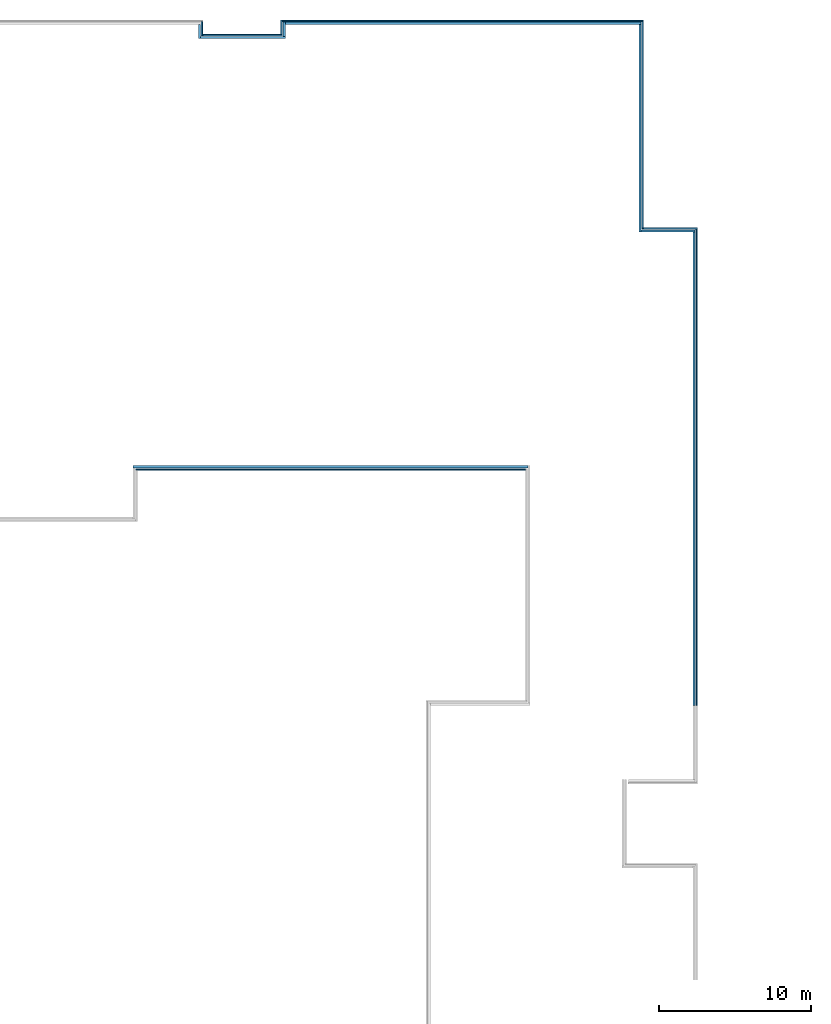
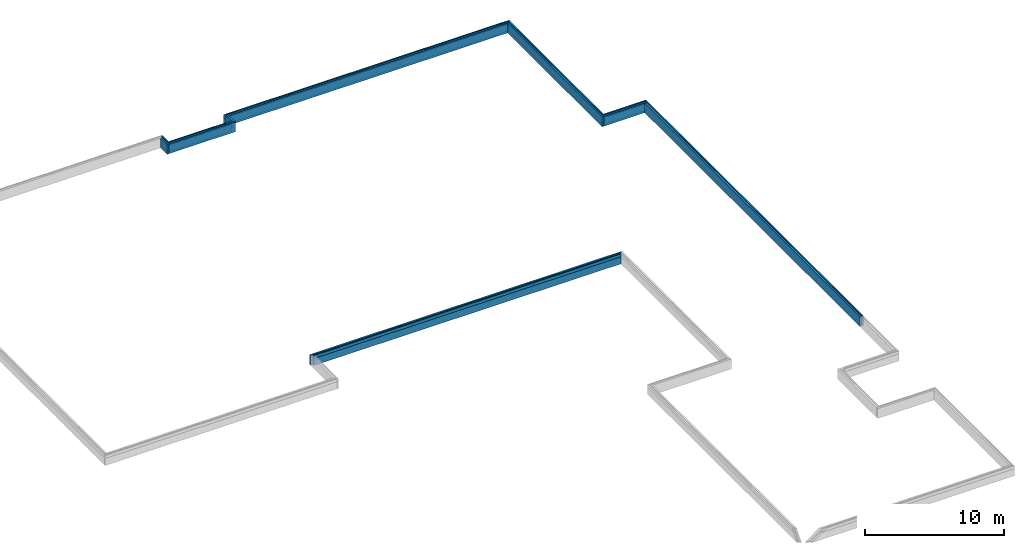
# One storey, part 3 of 3: 24 building element parts, 8 elements without a shape of their own.
"""IFC2X3 building model written with IfcOpenShell, lengths in millimetres."""

import ifcopenshell
import ifcopenshell.guid

model = None  # the IFC model being written
_history = None  # IfcOwnerHistory: only IFC2X3 demands one
_inside = {}  # id of a spatial element -> (the spatial element, [elements in it])
_under = {}  # id of a project, library or spatial element -> (it, [spatial elements below it])
_declared = {}  # id of a project -> (the project, [libraries it declares])
_typed = {}  # id of a type object -> (the type object, [elements of that type])
_made_of = {}  # id of a material, layer set ... -> (it, [elements and type objects made of it])


def new_model(schema):
    """Start an empty IFC model of exactly this schema.

    Asked for "IFC4X3", IfcOpenShell would pick the latest addendum, in which some entities
    have other attributes; the version numbers below select the first issue.
    IFC2X3 requires an IfcOwnerHistory on every rooted entity: one is made here for all.
    """
    global model, _history
    if schema == "IFC4X3":
        model = ifcopenshell.file(schema_version=(4, 3, 0, 0))
    else:
        model = ifcopenshell.file(schema=schema)
    _inside.clear()
    _under.clear()
    _declared.clear()
    _typed.clear()
    _made_of.clear()
    _history = None
    if model.schema == "IFC2X3":
        org = make("IfcOrganization", Name="unknown")
        user = make(
            "IfcPersonAndOrganization",
            ThePerson=make("IfcPerson", FamilyName="unknown"),
            TheOrganization=org,
        )
        app = make(
            "IfcApplication",
            ApplicationDeveloper=org,
            Version="unknown",
            ApplicationFullName="unknown",
            ApplicationIdentifier="unknown",
        )
        _history = make(
            "IfcOwnerHistory",
            OwningUser=user,
            OwningApplication=app,
            ChangeAction="ADDED",
            CreationDate=0,
        )
    return model


def make(cls, **values):
    """One entity of the class cls with the attributes given. An attribute that is None is left unset."""
    return model.create_entity(
        cls, **{name: value for name, value in values.items() if value is not None}
    )


def entity(cls, *values):
    """Any entity or typed value of the class cls, its attributes in the order of the schema. None: left unset."""
    e = model.create_entity(cls)
    for i, value in enumerate(values):
        if value is not None:
            e[i] = value
    return e


def rooted(cls, **values):
    """An entity with a GlobalId (a new one), such as an element, a storey or a relation."""
    return make(cls, GlobalId=ifcopenshell.guid.new(), OwnerHistory=_history, **values)


def si_unit(unit_type, name, prefix=None):
    """IfcSIUnit, for example si_unit("LENGTHUNIT", "METRE", prefix="MILLI")."""
    return make("IfcSIUnit", UnitType=unit_type, Prefix=prefix, Name=name)


def converted_unit(unit_type, name, factor, base, dimensions=None, offset=None):
    """IfcConversionBasedUnit, such as the inch: factor (a typed value) times the base unit."""
    return make(
        "IfcConversionBasedUnit"
        if offset is None
        else "IfcConversionBasedUnitWithOffset",
        ConversionOffset=offset,
        Dimensions=None
        if dimensions is None
        else entity("IfcDimensionalExponents", *dimensions),
        UnitType=unit_type,
        Name=name,
        ConversionFactor=make(
            "IfcMeasureWithUnit", ValueComponent=factor, UnitComponent=base
        ),
    )


def derived_unit(unit_type, elements):
    """IfcDerivedUnit: a product of units, each with its exponent."""
    return make(
        "IfcDerivedUnit",
        Elements=[
            make("IfcDerivedUnitElement", Unit=unit, Exponent=power)
            for unit, power in elements
        ],
        UnitType=unit_type,
    )


def money_unit(currency):
    """IfcMonetaryUnit."""
    return make("IfcMonetaryUnit", Currency=currency)


def assignment(units):
    """IfcUnitAssignment: the units of a project."""
    return None if units is None else make("IfcUnitAssignment", Units=units)


def point(xyz):
    """IfcCartesianPoint."""
    return None if xyz is None else make("IfcCartesianPoint", Coordinates=xyz)


def direction(xyz):
    """IfcDirection."""
    return None if xyz is None else make("IfcDirection", DirectionRatios=xyz)


def frame(location, z_axis=None, x_axis=None):
    """IfcAxis2Placement3D, a coordinate frame: its origin and axes. An axis left out is left unset."""
    return make(
        "IfcAxis2Placement3D",
        Location=point(location),
        Axis=direction(z_axis),
        RefDirection=direction(x_axis),
    )


def origin_with_axes():
    """The frame at (0, 0, 0) with the z axis (0, 0, 1) and the x axis (1, 0, 0) written out."""
    return frame((0.0, 0.0, 0.0), z_axis=(0.0, 0.0, 1.0), x_axis=(1.0, 0.0, 0.0))


def place(relative_to, where):
    """IfcLocalPlacement: puts the frame where relative to a parent placement (None: the world)."""
    return make(
        "IfcLocalPlacement", PlacementRelTo=relative_to, RelativePlacement=where
    )


def context(
    kind, dimensions, precision=None, world=None, true_north=None, identifier=None
):
    """IfcGeometricRepresentationContext, for example the 3D "Model" context."""
    return make(
        "IfcGeometricRepresentationContext",
        ContextIdentifier=identifier,
        ContextType=kind,
        CoordinateSpaceDimension=dimensions,
        Precision=precision,
        WorldCoordinateSystem=world,
        TrueNorth=true_north,
    )


def subcontext(parent, identifier, kind, view, scale=None):
    """IfcGeometricRepresentationSubContext, for example "Body" below "Model"."""
    return make(
        "IfcGeometricRepresentationSubContext",
        ContextIdentifier=identifier,
        ContextType=kind,
        ParentContext=parent,
        TargetScale=scale,
        TargetView=view,
    )


def project(units=None, contexts=None):
    """IfcProject with its units and contexts."""
    return rooted(
        "IfcProject",
        Name="project",
        RepresentationContexts=contexts,
        UnitsInContext=assignment(units),
    )


def spatial(cls, under=None, at=None, **own):
    """A site, building, storey or space (cls), placed at a placement, below another one or the project."""
    s = rooted(cls, ObjectPlacement=at, **own)
    if under is not None:
        _under.setdefault(under.id(), (under, []))[1].append(s)
    return s


def faces_of(points, faces, orient=None, outer=None):
    """IfcFace entities. A face is a list of loops; a loop is a list of indices into points, from 0.

    orient and outer hold one flag for each loop. By default every Orientation is true, the
    first loop of a face is its IfcFaceOuterBound and the others are IfcFaceBound.
    """
    made = []
    for i, loops in enumerate(faces):
        bounds = []
        for j, loop in enumerate(loops):
            is_outer = j == 0 if outer is None else outer[i][j]
            bounds.append(
                make(
                    "IfcFaceOuterBound" if is_outer else "IfcFaceBound",
                    Bound=make("IfcPolyLoop", Polygon=[points[k] for k in loop]),
                    Orientation=True if orient is None else orient[i][j],
                )
            )
        made.append(make("IfcFace", Bounds=bounds))
    return made


def faceted_brep(points, faces, orient=None, outer=None, voids=None):
    """IfcFacetedBrep: a solid bounded by flat faces; with voids (closed shells), ...WithVoids."""
    shared = [point(p) for p in points]
    hull = make("IfcClosedShell", CfsFaces=faces_of(shared, faces, orient, outer))
    if voids is None:
        return make("IfcFacetedBrep", Outer=hull)
    return make(
        "IfcFacetedBrepWithVoids",
        Outer=hull,
        Voids=[
            make(cls, CfsFaces=faces_of(shared, fs, o, b)) for cls, fs, o, b in voids
        ],
    )


def shape(context_of_items, identifier, shape_type, items):
    """IfcShapeRepresentation: the items that make up one representation, for example the "Body"."""
    return make(
        "IfcShapeRepresentation",
        ContextOfItems=context_of_items,
        RepresentationIdentifier=identifier,
        RepresentationType=shape_type,
        Items=items,
    )


def material(Name=None, Category=None):
    """IfcMaterial."""
    return make("IfcMaterial", Name=Name, Category=Category)


def made_of(thing, what):
    """Note that an element or type object is made of a material, layer set ...; save() writes the relation."""
    if what is not None:
        _made_of.setdefault(what.id(), (what, []))[1].append(thing)
    return thing


def type_object(cls, material=None, **own):
    """A type object (cls), such as IfcWallType, which elements share."""
    return made_of(rooted(cls, **own), material)


def element(
    cls,
    number,
    at=None,
    inside=None,
    cuts=None,
    type_object=None,
    material=None,
    context=None,
    identifier="Body",
    shape_type=None,
    held_by="IfcProductDefinitionShape",
    body=None,
    shapes=None,
    **own,
):
    """One element of the class cls, such as IfcWall. Its Tag is "e" and its number.

    at: its placement. inside: the storey or other place that contains it. cuts: it is an
    opening in that element (IfcRelVoidsElement). A single representation is given by context,
    identifier, shape_type and body (its items); several are given by shapes. held_by: the class
    of the entity that holds the representations. save() writes the other relations.
    """
    e = rooted(cls, Tag="e%d" % number, ObjectPlacement=at, **own)
    if body is not None:
        shapes = [shape(context, identifier, shape_type, body)]
    if shapes is not None:
        e.Representation = make(held_by, Representations=shapes)
    if inside is not None:
        _inside.setdefault(inside.id(), (inside, []))[1].append(e)
    if cuts is not None:
        rooted(
            "IfcRelVoidsElement", RelatingBuildingElement=cuts, RelatedOpeningElement=e
        )
    if type_object is not None:
        _typed.setdefault(type_object.id(), (type_object, []))[1].append(e)
    return made_of(e, material)


def aggregate(whole, parts):
    """IfcRelAggregates: a whole, such as a stair, and the parts it consists of."""
    return rooted("IfcRelAggregates", RelatingObject=whole, RelatedObjects=parts)


def save(model, path):
    """Write the relations noted so far, then the file.

    IfcRelAggregates (storeys below a building ...), IfcRelContainedInSpatialStructure (elements
    in a storey), IfcRelDefinesByType, IfcRelAssociatesMaterial and IfcRelDeclares: one each for
    every whole, place, type object, material and project.
    """
    for whole, parts in _under.values():
        aggregate(whole, parts)
    for where, things in _inside.values():
        rooted(
            "IfcRelContainedInSpatialStructure",
            RelatedElements=things,
            RelatingStructure=where,
        )
    for kind, things in _typed.values():
        rooted("IfcRelDefinesByType", RelatedObjects=things, RelatingType=kind)
    for what, things in _made_of.values():
        rooted("IfcRelAssociatesMaterial", RelatedObjects=things, RelatingMaterial=what)
    for by, libraries in _declared.values():
        rooted("IfcRelDeclares", RelatingContext=by, RelatedDefinitions=libraries)
    model.write(path)


model = new_model("IFC2X3")

# Units and contexts
model_context = context("Model", 3, precision=0.01, world=origin_with_axes(), true_north=direction((0.0, 1.0)))
plan_context = context("Plan", 3, precision=0.01, world=origin_with_axes(), true_north=direction((0.0, 1.0)))
body_context = subcontext(model_context, "Body", "Model", "MODEL_VIEW")
ifc_project = project(units=[si_unit("LENGTHUNIT", "METRE", prefix="MILLI"), si_unit("AREAUNIT", "SQUARE_METRE"), si_unit("VOLUMEUNIT", "CUBIC_METRE"), converted_unit("PLANEANGLEUNIT", "DEGREE", entity("IfcPlaneAngleMeasure", 0.0174532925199), si_unit("PLANEANGLEUNIT", "RADIAN"), dimensions=[0, 0, 0, 0, 0, 0, 0]), money_unit("EUR"), converted_unit("TIMEUNIT", "Year", entity("IfcTimeMeasure", 31556926.0), si_unit("TIMEUNIT", "SECOND"), dimensions=[0, 0, 1, 0, 0, 0, 0]), si_unit("MASSUNIT", "GRAM", prefix="KILO"), si_unit("THERMODYNAMICTEMPERATUREUNIT", "DEGREE_CELSIUS"), si_unit("LUMINOUSINTENSITYUNIT", "LUMEN"), si_unit("ENERGYUNIT", "JOULE", prefix="MEGA"), derived_unit("THERMALCONDUCTANCEUNIT", [(si_unit("POWERUNIT", "WATT"), 1), (si_unit("LENGTHUNIT", "METRE"), -1), (si_unit("THERMODYNAMICTEMPERATUREUNIT", "KELVIN"), -1)]), derived_unit("SPECIFICHEATCAPACITYUNIT", [(si_unit("ENERGYUNIT", "JOULE"), 1), (si_unit("MASSUNIT", "GRAM", prefix="KILO"), -1), (si_unit("THERMODYNAMICTEMPERATUREUNIT", "KELVIN"), -1)]), derived_unit("MASSDENSITYUNIT", [(si_unit("MASSUNIT", "GRAM", prefix="KILO"), 1), (si_unit("VOLUMEUNIT", "CUBIC_METRE"), -1)])], contexts=[model_context, plan_context])

# Site, building, storey
site_placement = place(None, origin_with_axes())
site = spatial("IfcSite", under=ifc_project, at=site_placement, Name="Site", CompositionType="ELEMENT")
building_placement = place(site_placement, origin_with_axes())
building = spatial("IfcBuilding", under=site, at=building_placement, Name="Naam gebouw", CompositionType="ELEMENT")
storey_placement = place(building_placement, frame((0.0, 0.0, -1540.0), z_axis=(0.0, 0.0, 1.0), x_axis=(1.0, 0.0, 0.0)))
storey = spatial("IfcBuildingStorey", under=building, at=storey_placement, Name="Fundering", CompositionType="ELEMENT", Elevation=-1540.0)

# Wall, building element parts
wall_type = type_object("IfcWallType", Name="21 buitenwand onder maaiveld & isolatie 286 x 870", PredefinedType="ELEMENTEDWALL")
wall_1_placement = place(storey_placement, frame((47920.0380848, 6369.99642804, 1470.0), z_axis=(0.0, 0.0, 1.0), x_axis=(-1.0, 0.0, 0.0)))
wall_1 = element("IfcWall", 1, at=wall_1_placement, inside=storey, type_object=wall_type, Name="Buitenwand ondermaaiveld")
ifc_material_1 = material(Name="Steen - Betonblok vuilwerk")
building_element_part_1_placement = place(wall_1_placement, origin_with_axes())
building_element_part_1 = element("IfcBuildingElementPart", 2, at=building_element_part_1_placement, material=ifc_material_1, Name="Steen - Betonblok vuilwerk", context=body_context, shape_type="Brep", body=[
    faceted_brep([(25864.0380832, 186.000001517, -870.000006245), (25864.0380832, 186.000001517, -250.000002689), (286.0, 186.000001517, -250.000002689), (286.0, 186.000001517, -870.000006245), (25864.0380832, 286.0, -250.000002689), (25864.0380832, 286.0, -870.000006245), (286.0, 286.0, -250.000002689), (286.0, 286.0, -870.000006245)], [[[0, 1, 2, 3]], [[4, 1, 0, 5]], [[1, 4, 6, 2]], [[3, 2, 6, 7]], [[5, 0, 3, 7]], [[4, 5, 7, 6]]]),
])
ifc_material_2 = material(Name="Steen - Baksteen AFW")
building_element_part_2_placement = place(wall_1_placement, origin_with_axes())
building_element_part_2 = element("IfcBuildingElementPart", 3, at=building_element_part_2_placement, material=ifc_material_2, Name="Steen - Baksteen AFW", context=body_context, shape_type="Brep", body=[
    faceted_brep([(25864.0380832, 186.0, -250.000002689), (25864.0380832, 186.0, 0.0), (286.0, 186.0, 0.0), (286.0, 186.0, -250.0), (25864.0380832, 286.0, 0.0), (25864.0380832, 286.0, -250.000002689), (286.0, 286.0, 0.0), (286.0, 286.0, -250.0)], [[[0, 1, 2, 3]], [[4, 1, 0, 5]], [[1, 4, 6, 2]], [[3, 2, 6, 7]], [[5, 0, 3, 7]], [[4, 5, 7, 6]]]),
])
ifc_material_3 = material(Name="Isolatie - Kunststof hard")
building_element_part_3_placement = place(wall_1_placement, origin_with_axes())
building_element_part_3 = element("IfcBuildingElementPart", 4, at=building_element_part_3_placement, material=ifc_material_3, Name="Isolatie - Kunststof hard", context=body_context, shape_type="Brep", body=[
    faceted_brep([(140.0, 140.0, 0.0), (140.0, 0.0, 0.0), (26050.0380832, 0.0, 0.0), (26050.0380832, 140.0, 0.0), (140.0, 0.0, -250.000002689), (140.0, 140.0, -250.000002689), (140.0, 0.0, -870.000006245), (26050.0380832, 0.0, -870.000006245), (26050.0380832, 140.0, -870.000006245), (140.0, 140.0, -870.000006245)], [[[0, 1, 2, 3]], [[4, 1, 0, 5]], [[1, 4, 6, 7, 2]], [[8, 3, 2, 7]], [[5, 0, 3, 8, 9]], [[4, 5, 9, 6]], [[6, 9, 8, 7]]]),
])
aggregate(wall_1, [building_element_part_1, building_element_part_2, building_element_part_3])

wall_2_placement = place(storey_placement, frame((26165.9827545, 35329.994832, 1470.0), z_axis=(0.0, 0.0, 1.0), x_axis=(0.0, -1.0, 0.0)))
wall_2 = element("IfcWall", 5, at=wall_2_placement, inside=storey, type_object=wall_type, Name="Buitenwand ondermaaiveld")
building_element_part_4_placement = place(wall_2_placement, origin_with_axes())
building_element_part_4 = element("IfcBuildingElementPart", 6, at=building_element_part_4_placement, material=ifc_material_1, Name="Steen - Betonblok vuilwerk", context=body_context, shape_type="Brep", body=[
    faceted_brep([(754.000360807, 186.000001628, -250.000002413), (754.000360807, 286.0, -250.000002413), (-185.998246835, 286.0, -250.000002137), (-185.998246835, 186.000001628, -250.000002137), (754.000360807, 286.0, -870.000005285), (754.000360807, 186.000001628, -870.000005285), (-185.998246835, 286.0, -870.000004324), (-185.998246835, 186.000001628, -870.000004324)], [[[0, 1, 2, 3]], [[4, 1, 0, 5]], [[1, 4, 6, 2]], [[3, 2, 6, 7]], [[5, 0, 3, 7]], [[4, 5, 7, 6]]]),
])
building_element_part_5_placement = place(wall_2_placement, origin_with_axes())
building_element_part_5 = element("IfcBuildingElementPart", 7, at=building_element_part_5_placement, material=ifc_material_2, Name="Steen - Baksteen AFW", context=body_context, shape_type="Brep", body=[
    faceted_brep([(754.000360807, 186.0, 0.0), (754.000360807, 286.0, 0.0), (-185.998245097, 286.0, 0.0), (-185.998245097, 186.0, 0.0), (754.000360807, 286.0, -250.000002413), (754.000360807, 186.0, -250.000002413), (-185.998245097, 286.0, -250.0), (-185.998245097, 186.0, -250.0)], [[[0, 1, 2, 3]], [[4, 1, 0, 5]], [[1, 4, 6, 2]], [[3, 2, 6, 7]], [[5, 0, 3, 7]], [[4, 5, 7, 6]]]),
])
building_element_part_6_placement = place(wall_2_placement, origin_with_axes())
building_element_part_6 = element("IfcBuildingElementPart", 8, at=building_element_part_6_placement, material=ifc_material_3, Name="Isolatie - Kunststof hard", context=body_context, shape_type="Brep", body=[
    faceted_brep([(0.00175490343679, 140.0, -250.000002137), (0.00175490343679, 140.0, 0.0), (940.000360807, 140.0, 0.0), (940.000360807, 140.0, -870.000005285), (0.00175490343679, 140.0, -870.000004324), (0.00175490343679, 0.0, 0.0), (0.00175490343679, 0.0, -250.000002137), (940.000360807, 0.0, 0.0), (940.000360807, 0.0, -870.000005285), (0.00175490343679, 0.0, -870.000004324)], [[[0, 1, 2, 3, 4]], [[5, 1, 0, 6]], [[1, 5, 7, 2]], [[8, 3, 2, 7]], [[9, 4, 3, 8]], [[6, 0, 4, 9]], [[5, 6, 9, 8, 7]]]),
])
aggregate(wall_2, [building_element_part_4, building_element_part_5, building_element_part_6])

wall_3_placement = place(storey_placement, frame((26165.9827545, 34389.9944696, 1470.0), z_axis=(0.0, 0.0, 1.0), x_axis=(1.0, 0.0, 0.0)))
wall_3 = element("IfcWall", 9, at=wall_3_placement, inside=storey, type_object=wall_type, Name="Buitenwand ondermaaiveld")
building_element_part_7_placement = place(wall_3_placement, origin_with_axes())
building_element_part_7 = element("IfcBuildingElementPart", 10, at=building_element_part_7_placement, material=ifc_material_1, Name="Steen - Betonblok vuilwerk", context=body_context, shape_type="Brep", body=[
    faceted_brep([(5518.03417659, 186.000001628, -250.000002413), (5518.03417659, 286.0, -250.000002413), (286.0, 286.0, -250.000002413), (286.0, 186.000001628, -250.000002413), (5518.03417659, 286.0, -870.000005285), (5518.03417659, 186.000001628, -870.000005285), (286.0, 286.0, -870.000005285), (286.0, 186.000001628, -870.000005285)], [[[0, 1, 2, 3]], [[4, 1, 0, 5]], [[1, 4, 6, 2]], [[3, 2, 6, 7]], [[5, 0, 3, 7]], [[4, 5, 7, 6]]]),
])
building_element_part_8_placement = place(wall_3_placement, origin_with_axes())
building_element_part_8 = element("IfcBuildingElementPart", 11, at=building_element_part_8_placement, material=ifc_material_2, Name="Steen - Baksteen AFW", context=body_context, shape_type="Brep", body=[
    faceted_brep([(5518.03417659, 186.0, 0.0), (5518.03417659, 286.0, 0.0), (286.0, 286.0, 0.0), (286.0, 186.0, 0.0), (5518.03417659, 286.0, -250.000002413), (5518.03417659, 186.0, -250.000002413), (286.0, 286.0, -250.0), (286.0, 186.0, -250.0)], [[[0, 1, 2, 3]], [[4, 1, 0, 5]], [[1, 4, 6, 2]], [[3, 2, 6, 7]], [[5, 0, 3, 7]], [[4, 5, 7, 6]]]),
])
building_element_part_9_placement = place(wall_3_placement, origin_with_axes())
building_element_part_9 = element("IfcBuildingElementPart", 12, at=building_element_part_9_placement, material=ifc_material_3, Name="Isolatie - Kunststof hard", context=body_context, shape_type="Brep", body=[
    faceted_brep([(140.0, 140.0, -250.000002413), (140.0, 140.0, 0.0), (5704.03417659, 140.0, 0.0), (5704.03417659, 140.0, -870.000005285), (140.0, 140.0, -870.000005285), (140.0, 0.0, 0.0), (140.0, 0.0, -250.000002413), (5704.03417659, 0.0, 0.0), (5704.03417659, 0.0, -870.000005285), (140.0, 0.0, -870.000005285)], [[[0, 1, 2, 3, 4]], [[5, 1, 0, 6]], [[1, 5, 7, 2]], [[8, 3, 2, 7]], [[9, 4, 3, 8]], [[6, 0, 4, 9]], [[5, 6, 9, 8, 7]]]),
])
aggregate(wall_3, [building_element_part_7, building_element_part_8, building_element_part_9])

wall_4_placement = place(storey_placement, frame((31870.0169327, 34389.9944696, 1470.0), z_axis=(0.0, 0.0, 1.0), x_axis=(0.0, 1.0, 0.0)))
wall_4 = element("IfcWall", 13, at=wall_4_placement, inside=storey, type_object=wall_type, Name="Buitenwand ondermaaiveld")
building_element_part_10_placement = place(wall_4_placement, origin_with_axes())
building_element_part_10 = element("IfcBuildingElementPart", 14, at=building_element_part_10_placement, material=ifc_material_1, Name="Steen - Betonblok vuilwerk", context=body_context, shape_type="Brep", body=[
    faceted_brep([(286.0, 286.0, -250.000002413), (286.0, 186.000001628, -250.000002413), (1226.00036848, 186.000001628, -250.000002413), (1226.00036848, 286.0, -250.000002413), (286.0, 186.000001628, -870.000005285), (286.0, 286.0, -870.000005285), (1226.00036848, 186.000001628, -870.000005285), (1226.00036848, 286.0, -870.000005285)], [[[0, 1, 2, 3]], [[4, 1, 0, 5]], [[1, 4, 6, 2]], [[3, 2, 6, 7]], [[5, 0, 3, 7]], [[4, 5, 7, 6]]]),
])
building_element_part_11_placement = place(wall_4_placement, origin_with_axes())
building_element_part_11 = element("IfcBuildingElementPart", 15, at=building_element_part_11_placement, material=ifc_material_2, Name="Steen - Baksteen AFW", context=body_context, shape_type="Brep", body=[
    faceted_brep([(286.0, 286.0, 0.0), (286.0, 186.0, 0.0), (1226.00036848, 186.0, 0.0), (1226.00036848, 286.0, 0.0), (286.0, 186.0, -250.0), (286.0, 286.0, -250.0), (1226.00036848, 186.0, -250.000002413), (1226.00036848, 286.0, -250.000002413)], [[[0, 1, 2, 3]], [[4, 1, 0, 5]], [[1, 4, 6, 2]], [[7, 3, 2, 6]], [[5, 0, 3, 7]], [[4, 5, 7, 6]]]),
])
building_element_part_12_placement = place(wall_4_placement, origin_with_axes())
building_element_part_12 = element("IfcBuildingElementPart", 16, at=building_element_part_12_placement, material=ifc_material_3, Name="Isolatie - Kunststof hard", context=body_context, shape_type="Brep", body=[
    faceted_brep([(1080.0003687, 0.0, -250.000002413), (1080.0003687, 0.0, 0.0), (140.0, 0.0, 0.0), (140.0, 0.0, -250.000002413), (140.0, 0.0, -870.000005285), (1080.0003687, 0.0, -870.000005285), (1080.0003687, 140.0, 0.0), (1080.0003687, 140.0, -250.000002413), (140.0, 140.0, 0.0), (140.0, 140.0, -250.000002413), (140.0, 140.0, -870.000005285), (1080.0003687, 140.0, -870.000005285)], [[[0, 1, 2, 3, 4, 5]], [[6, 1, 0, 7]], [[1, 6, 8, 2]], [[3, 2, 8, 9]], [[3, 9, 10, 4]], [[11, 5, 4, 10]], [[7, 0, 5, 11]], [[6, 7, 11, 10, 9, 8]]]),
])
aggregate(wall_4, [building_element_part_10, building_element_part_11, building_element_part_12])

wall_5_placement = place(storey_placement, frame((31870.0169327, 35329.994832, 1470.0), z_axis=(0.0, 0.0, 1.0), x_axis=(1.0, 0.0, 0.0)))
wall_5 = element("IfcWall", 17, at=wall_5_placement, inside=storey, type_object=wall_type, Name="Buitenwand ondermaaiveld")
building_element_part_13_placement = place(wall_5_placement, origin_with_axes())
building_element_part_13 = element("IfcBuildingElementPart", 18, at=building_element_part_13_placement, material=ifc_material_1, Name="Steen - Betonblok vuilwerk", context=body_context, shape_type="Brep", body=[
    faceted_brep([(-186.000001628, 286.0, -870.000005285), (-186.000001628, 286.0, -250.000002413), (23495.9982511, 286.0, -250.000002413), (23495.9982511, 286.0, -870.000005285), (-186.000001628, 186.000001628, -250.000002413), (-186.000001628, 186.000001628, -870.000005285), (23495.9982511, 186.000001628, -250.000002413), (23495.9982511, 186.000001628, -870.000005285)], [[[0, 1, 2, 3]], [[4, 1, 0, 5]], [[1, 4, 6, 2]], [[7, 3, 2, 6]], [[5, 0, 3, 7]], [[4, 5, 7, 6]]]),
])
building_element_part_14_placement = place(wall_5_placement, origin_with_axes())
building_element_part_14 = element("IfcBuildingElementPart", 19, at=building_element_part_14_placement, material=ifc_material_2, Name="Steen - Baksteen AFW", context=body_context, shape_type="Brep", body=[
    faceted_brep([(-186.0, 286.0, -250.0), (-186.0, 286.0, 0.0), (23495.9982511, 286.0, 0.0), (23495.9982511, 286.0, -250.000002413), (-186.0, 186.0, 0.0), (-186.0, 186.0, -250.0), (23495.9982511, 186.0, 0.0), (23495.9982511, 186.0, -250.000002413)], [[[0, 1, 2, 3]], [[4, 1, 0, 5]], [[1, 4, 6, 2]], [[7, 3, 2, 6]], [[5, 0, 3, 7]], [[4, 5, 7, 6]]]),
])
building_element_part_15_placement = place(wall_5_placement, origin_with_axes())
building_element_part_15 = element("IfcBuildingElementPart", 20, at=building_element_part_15_placement, material=ifc_material_3, Name="Isolatie - Kunststof hard", context=body_context, shape_type="Brep", body=[
    faceted_brep([(23349.9982514, 0.0, 0.0), (23349.9982514, 140.0, 0.0), (0.0, 140.0, 0.0), (0.0, 0.0, 0.0), (23349.9982514, 140.0, -250.000002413), (23349.9982514, 0.0, -250.000002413), (23349.9982514, 140.0, -870.000005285), (0.0, 140.0, -870.000005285), (0.0, 140.0, -250.000002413), (0.0, 0.0, -250.000002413), (0.0, 0.0, -870.000005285), (23349.9982514, 0.0, -870.000005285)], [[[0, 1, 2, 3]], [[4, 1, 0, 5]], [[1, 4, 6, 7, 8, 2]], [[3, 2, 8, 9]], [[5, 0, 3, 9, 10, 11]], [[4, 5, 11, 6]], [[6, 11, 10, 7]], [[9, 8, 7, 10]]]),
])
aggregate(wall_5, [building_element_part_13, building_element_part_14, building_element_part_15])

wall_6_placement = place(storey_placement, frame((55080.0151778, 35329.994832, 1470.0), z_axis=(0.0, 0.0, 1.0), x_axis=(0.0, -1.0, 0.0)))
wall_6 = element("IfcWall", 21, at=wall_6_placement, inside=storey, type_object=wall_type, Name="Buitenwand ondermaaiveld")
building_element_part_16_placement = place(wall_6_placement, origin_with_axes())
building_element_part_16 = element("IfcBuildingElementPart", 22, at=building_element_part_16_placement, material=ifc_material_1, Name="Steen - Betonblok vuilwerk", context=body_context, shape_type="Brep", body=[
    faceted_brep([(13449.9899569, 186.000001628, -250.000002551), (13449.9899569, 286.0, -250.000002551), (-186.000001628, 286.0, -250.000002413), (-186.000001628, 186.000001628, -250.000002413), (13449.9899569, 286.0, -870.000005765), (13449.9899569, 186.000001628, -870.000005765), (-186.000001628, 286.0, -870.000005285), (-186.000001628, 186.000001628, -870.000005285)], [[[0, 1, 2, 3]], [[4, 1, 0, 5]], [[1, 4, 6, 2]], [[3, 2, 6, 7]], [[5, 0, 3, 7]], [[4, 5, 7, 6]]]),
])
building_element_part_17_placement = place(wall_6_placement, origin_with_axes())
building_element_part_17 = element("IfcBuildingElementPart", 23, at=building_element_part_17_placement, material=ifc_material_2, Name="Steen - Baksteen AFW", context=body_context, shape_type="Brep", body=[
    faceted_brep([(13449.9899569, 186.0, 0.0), (13449.9899569, 286.0, 0.0), (-186.0, 286.0, 0.0), (-186.0, 186.0, 0.0), (13449.9899569, 286.0, -250.000002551), (13449.9899569, 186.0, -250.000002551), (-186.0, 286.0, -250.0), (-186.0, 186.0, -250.0)], [[[0, 1, 2, 3]], [[4, 1, 0, 5]], [[1, 4, 6, 2]], [[3, 2, 6, 7]], [[5, 0, 3, 7]], [[4, 5, 7, 6]]]),
])
building_element_part_18_placement = place(wall_6_placement, origin_with_axes())
building_element_part_18 = element("IfcBuildingElementPart", 24, at=building_element_part_18_placement, material=ifc_material_3, Name="Isolatie - Kunststof hard", context=body_context, shape_type="Brep", body=[
    faceted_brep([(0.0, 140.0, -250.000002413), (0.0, 140.0, 0.0), (13635.9899569, 140.0, 0.0), (13635.9899569, 140.0, -870.000005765), (0.0, 140.0, -870.000005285), (0.0, 0.0, 0.0), (0.0, 0.0, -250.000002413), (13635.9899569, 0.0, 0.0), (13635.9899569, 0.0, -870.000005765), (0.0, 0.0, -870.000005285)], [[[0, 1, 2, 3, 4]], [[5, 1, 0, 6]], [[1, 5, 7, 2]], [[8, 3, 2, 7]], [[9, 4, 3, 8]], [[6, 0, 4, 9]], [[5, 6, 9, 8, 7]]]),
])
aggregate(wall_6, [building_element_part_16, building_element_part_17, building_element_part_18])

wall_7_placement = place(storey_placement, frame((55080.0151778, 21480.0048735, 1470.0), z_axis=(0.0, 0.0, 1.0), x_axis=(1.0, 0.0, 0.0)))
wall_7 = element("IfcWall", 25, at=wall_7_placement, inside=storey, type_object=wall_type, Name="Buitenwand ondermaaiveld")
building_element_part_19_placement = place(wall_7_placement, origin_with_axes())
building_element_part_19 = element("IfcBuildingElementPart", 26, at=building_element_part_19_placement, material=ifc_material_1, Name="Steen - Betonblok vuilwerk", context=body_context, shape_type="Brep", body=[
    faceted_brep([(286.0, 500.0, -870.000005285), (286.0, 500.0, -250.000002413), (3836.00147711, 500.0, -250.000002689), (3836.00147711, 500.0, -870.000006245), (286.0, 400.000001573, -250.000002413), (286.0, 400.000001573, -870.000005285), (3836.00147711, 400.000001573, -250.000002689), (3836.00147711, 400.000001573, -870.000006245)], [[[0, 1, 2, 3]], [[4, 1, 0, 5]], [[1, 4, 6, 2]], [[7, 3, 2, 6]], [[5, 0, 3, 7]], [[4, 5, 7, 6]]]),
])
building_element_part_20_placement = place(wall_7_placement, origin_with_axes())
building_element_part_20 = element("IfcBuildingElementPart", 27, at=building_element_part_20_placement, material=ifc_material_2, Name="Steen - Baksteen AFW", context=body_context, shape_type="Brep", body=[
    faceted_brep([(286.0, 500.0, -250.0), (286.0, 500.0, 0.0), (3836.00147711, 500.0, 0.0), (3836.00147711, 500.0, -250.000002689), (286.0, 400.0, 0.0), (286.0, 400.0, -250.0), (3836.00147711, 400.0, 0.0), (3836.00147711, 400.0, -250.000002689)], [[[0, 1, 2, 3]], [[4, 1, 0, 5]], [[1, 4, 6, 2]], [[7, 3, 2, 6]], [[5, 0, 3, 7]], [[4, 5, 7, 6]]]),
])
building_element_part_21_placement = place(wall_7_placement, origin_with_axes())
building_element_part_21 = element("IfcBuildingElementPart", 28, at=building_element_part_21_placement, material=ifc_material_3, Name="Isolatie - Kunststof hard", context=body_context, shape_type="Brep", body=[
    faceted_brep([(3690.00148473, 214.0, 0.0), (3690.00148473, 354.0, 0.0), (140.0, 354.0, 0.0), (140.0, 214.0, 0.0), (3690.00148473, 354.0, -250.000002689), (3690.00148473, 214.0, -250.000002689), (3690.00148473, 354.0, -870.000006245), (140.0, 354.0, -870.000005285), (140.0, 354.0, -250.000002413), (140.0, 214.0, -250.000002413), (140.0, 214.0, -870.000005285), (3690.00148473, 214.0, -870.000006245)], [[[0, 1, 2, 3]], [[4, 1, 0, 5]], [[1, 4, 6, 7, 8, 2]], [[3, 2, 8, 9]], [[5, 0, 3, 9, 10, 11]], [[4, 5, 11, 6]], [[6, 11, 10, 7]], [[9, 8, 7, 10]]]),
])
aggregate(wall_7, [building_element_part_19, building_element_part_20, building_element_part_21])

wall_8_placement = place(storey_placement, frame((58630.0166564, -9380.00357147, 1470.0), z_axis=(0.0, 0.0, 1.0), x_axis=(0.0, 1.0, 0.0)))
wall_8 = element("IfcWall", 29, at=wall_8_placement, inside=storey, type_object=wall_type, Name="Buitenwand ondermaaiveld")
building_element_part_22_placement = place(wall_8_placement, origin_with_axes())
building_element_part_22 = element("IfcBuildingElementPart", 30, at=building_element_part_22_placement, material=ifc_material_3, Name="Isolatie - Kunststof hard", context=body_context, shape_type="Brep", body=[
    faceted_brep([(31074.008445, -140.0, -250.000002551), (31074.008445, -140.0, 0.0), (0.0, -140.0, 0.0), (0.0, -140.0, -870.000006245), (31074.008445, -140.0, -870.000005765), (31074.008445, 0.0, 0.0), (31074.008445, 0.0, -250.000002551), (0.0, 0.0, 0.0), (0.0, 0.0, -870.000006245), (31074.008445, 0.0, -870.000005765)], [[[0, 1, 2, 3, 4]], [[5, 1, 0, 6]], [[1, 5, 7, 2]], [[8, 3, 2, 7]], [[9, 4, 3, 8]], [[6, 0, 4, 9]], [[5, 6, 9, 8, 7]]]),
])
building_element_part_23_placement = place(wall_8_placement, origin_with_axes())
building_element_part_23 = element("IfcBuildingElementPart", 31, at=building_element_part_23_placement, material=ifc_material_2, Name="Steen - Baksteen AFW", context=body_context, shape_type="Brep", body=[
    faceted_brep([(31260.008445, -286.0, -250.0), (31260.008445, -286.0, 0.0), (0.0, -286.0, 0.0), (0.0, -286.0, -250.0), (31260.008445, -186.0, 0.0), (31260.008445, -186.0, -250.0), (0.0, -186.0, 0.0), (0.0, -186.0, -250.0)], [[[0, 1, 2, 3]], [[4, 1, 0, 5]], [[1, 4, 6, 2]], [[7, 3, 2, 6]], [[5, 0, 3, 7]], [[4, 5, 7, 6]]]),
])
building_element_part_24_placement = place(wall_8_placement, origin_with_axes())
building_element_part_24 = element("IfcBuildingElementPart", 32, at=building_element_part_24_placement, material=ifc_material_1, Name="Steen - Betonblok vuilwerk", context=body_context, shape_type="Brep", body=[
    faceted_brep([(31260.0084466, -286.0, -870.000005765), (31260.0084466, -286.0, -250.000002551), (0.0, -286.0, -250.000002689), (0.0, -286.0, -870.000006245), (31260.0084466, -186.000001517, -250.000002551), (31260.0084466, -186.000001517, -870.000005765), (0.0, -186.000001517, -250.000002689), (0.0, -186.000001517, -870.000006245)], [[[0, 1, 2, 3]], [[4, 1, 0, 5]], [[1, 4, 6, 2]], [[2, 6, 7, 3]], [[5, 0, 3, 7]], [[4, 5, 7, 6]]]),
])
aggregate(wall_8, [building_element_part_22, building_element_part_23, building_element_part_24])

save(model, "model.ifc")
